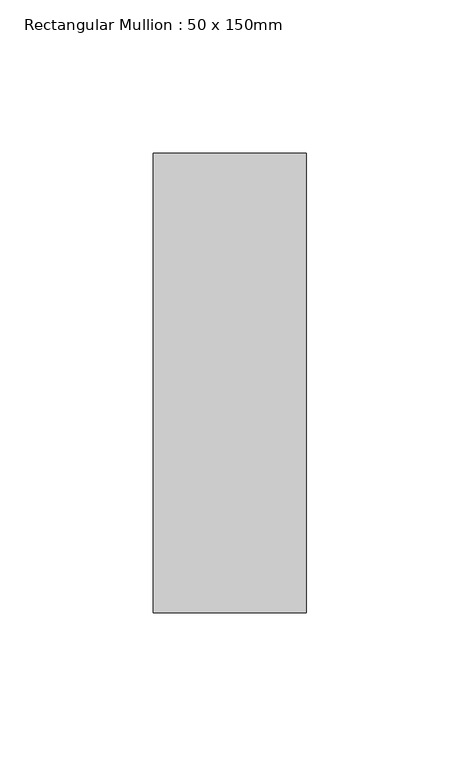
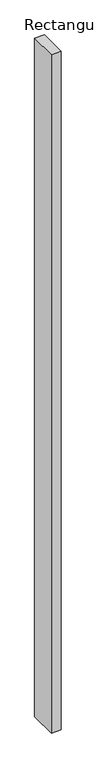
"""IFC4 building model written with IfcOpenShell, lengths in millimetres: member geometry, Rectangular Mullion : 50 x 150mm."""

from ifc_helpers import new_model, si_unit, frame, origin, place, context, project, spatial, polyline, outline, extrude, source, transform, mapped, element, save


def rectangular_mullion_50_x_150mm_f56f8a9a(model_context):
    return source(origin(), model_context, "Body", "SweptSolid", [
        extrude(outline(polyline([(25.0, 75.0), (25.0, -75.0), (-25.0, -75.0), (-25.0, 75.0), (25.0, 75.0)])), frame((0.0, 0.0, -3724.5130889), z_axis=(0.0, 0.0, 1.0), x_axis=(1.0, 0.0, 0.0)), (0.0, 0.0, 1.0), 3724.5130889),
    ])


if __name__ == "__main__":
    model = new_model("IFC4")
    model_context = context("Model", 3, world=origin())
    ifc_project = project(units=[si_unit("LENGTHUNIT", "METRE", prefix="MILLI")], contexts=[model_context])
    site = spatial("IfcSite", under=ifc_project)
    building = spatial("IfcBuilding", under=site)
    placement = place(None, origin())
    rectangular_mullion_50_x_150mm_shape = rectangular_mullion_50_x_150mm_f56f8a9a(model_context)
    element("IfcMember", 1, ObjectType="Rectangular Mullion : 50 x 150mm", at=placement, inside=building, context=model_context, shape_type="MappedRepresentation", body=[
        mapped(rectangular_mullion_50_x_150mm_shape, transform((0.0, 0.0, 0.0), x_axis=(1.0, 0.0, 0.0), y_axis=(0.0, 1.0, 0.0), z_axis=(0.0, 0.0, 1.0))),
    ])
    save(model, "model.ifc")
